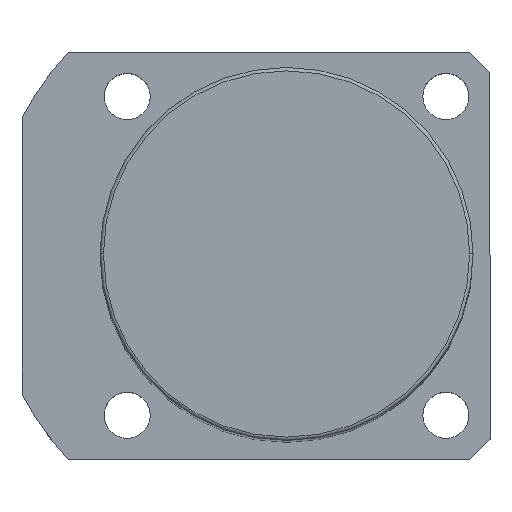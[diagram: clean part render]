
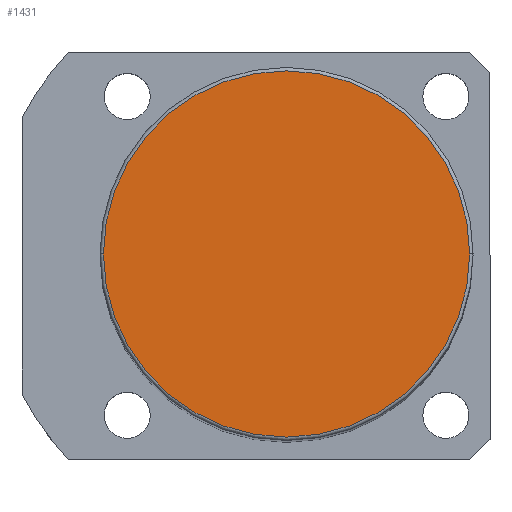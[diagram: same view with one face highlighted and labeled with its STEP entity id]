
A CAD part, top view. The second image highlights one B-rep face of the part: STEP entity #1431.
In plain terms, the highlighted planar face has unit normal (0, 0, 1).
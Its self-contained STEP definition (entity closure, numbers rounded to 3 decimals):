
#92 = CARTESIAN_POINT ( 'NONE',  ( 0., 0., 171. ) ) ;
#174 = CIRCLE ( 'NONE', #896, 27. ) ;
#418 = DIRECTION ( 'NONE',  ( 1., 0., 0. ) ) ;
#503 = CARTESIAN_POINT ( 'NONE',  ( -27., 0., 171. ) ) ;
#533 = VERTEX_POINT ( 'NONE', #2175 ) ;
#548 = CIRCLE ( 'NONE', #1842, 27. ) ;
#717 = DIRECTION ( 'NONE',  ( 0., 0., 1. ) ) ;
#807 = EDGE_CURVE ( 'NONE', #1227, #533, #174, .T. ) ;
#896 = AXIS2_PLACEMENT_3D ( 'NONE', #92, #2064, #418 ) ;
#1020 = DIRECTION ( 'NONE',  ( 0., 0., 1. ) ) ;
#1178 = CARTESIAN_POINT ( 'NONE',  ( 0., 0., 171. ) ) ;
#1226 = PLANE ( 'NONE',  #1625 ) ;
#1227 = VERTEX_POINT ( 'NONE', #503 ) ;
#1408 = DIRECTION ( 'NONE',  ( 1., 0., 0. ) ) ;
#1431 = ADVANCED_FACE ( 'NONE', ( #1760 ), #1226, .T. ) ;
#1605 = CARTESIAN_POINT ( 'NONE',  ( 0., 0., 171. ) ) ;
#1621 = EDGE_LOOP ( 'NONE', ( #1801, #2071 ) ) ;
#1625 = AXIS2_PLACEMENT_3D ( 'NONE', #1605, #717, #1408 ) ;
#1701 = DIRECTION ( 'NONE',  ( 1., 0., 0. ) ) ;
#1709 = EDGE_CURVE ( 'NONE', #533, #1227, #548, .T. ) ;
#1760 = FACE_OUTER_BOUND ( 'NONE', #1621, .T. ) ;
#1801 = ORIENTED_EDGE ( 'NONE', *, *, #1709, .T. ) ;
#1842 = AXIS2_PLACEMENT_3D ( 'NONE', #1178, #1020, #1701 ) ;
#2064 = DIRECTION ( 'NONE',  ( 0., 0., 1. ) ) ;
#2071 = ORIENTED_EDGE ( 'NONE', *, *, #807, .T. ) ;
#2175 = CARTESIAN_POINT ( 'NONE',  ( 27., 0., 171. ) ) ;
